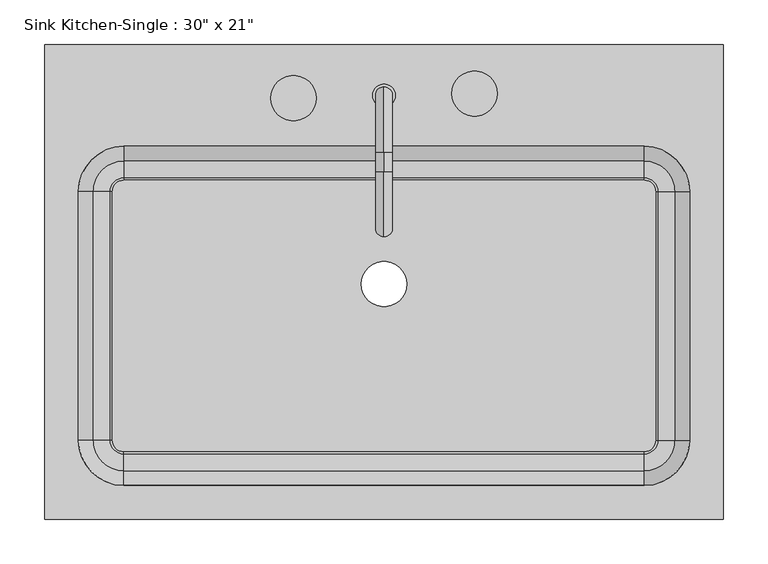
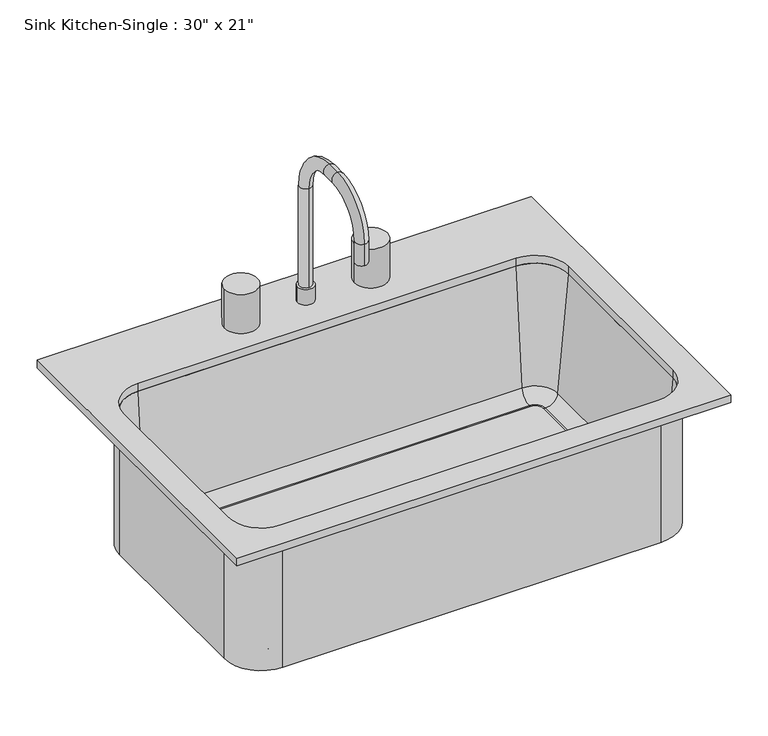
"""IFC4 building model written with IfcOpenShell, lengths in millimetres: flow terminal geometry."""

from ifc_helpers import new_model, si_unit, point, frame, frame_2d, origin, place, context, project, spatial, polyline, circle_curve, ellipse_curve, trimmed, segment, composite_curve, outline, extrude, source, transform, mapped, element, save
from ifc_brep_helpers import plane_surface, cylinder_surface, revolved_surface, advanced_brep


def flow_terminal_4af5d52b(model_context):
    return source(origin(), model_context, "Body", "SolidModel", [
        extrude(outline(composite_curve([segment(trimmed(circle_curve(frame_2d((15.6892406, 211.8954011)), 12.7), [point((2.9892406, 211.8954011))], [point((28.3892406, 211.8954011))], False, "CARTESIAN"), True, "CONTINUOUS"), segment(trimmed(circle_curve(frame_2d((15.6892406, 211.8954011)), 12.7), [point((28.3892406, 211.8954011))], [point((2.9892406, 211.8954011))], False, "CARTESIAN"), True, "CONTINUOUS")], self_intersect=False)), frame((0.0, 0.0, 927.1), z_axis=(0.0, 0.0, 1.0), x_axis=(1.0, 0.0, 0.0)), (0.0, 0.0, 1.0), 25.4),
        advanced_brep(
        [(15.6892406, 221.4204011, 927.1), (15.6892406, 202.3704011, 927.1), (15.6892406, 221.4204011, 1114.425), (15.6892406, 202.3704011, 1114.425), (15.6892406, 148.3954011, 1168.4), (15.6892406, 148.3954011, 1187.45), (15.6892406, 126.1704011, 1187.45), (15.6892406, 126.1704011, 1168.4), (15.6892406, 72.1954011, 1114.425), (15.6892406, 53.1454011, 1114.425), (15.6892406, 53.1454011, 1079.5), (15.6892406, 72.1954011, 1079.5)],
        [
            (0, 1, circle_curve(frame((15.6892406, 211.8954011, 927.1), z_axis=(0.0, 0.0, -1.0), x_axis=(0.0, -1.0, 0.0)), 9.525)),
            (1, 0, circle_curve(frame((15.6892406, 211.8954011, 927.1), z_axis=(0.0, 0.0, -1.0), x_axis=(0.0, -1.0, 0.0)), 9.525)),
            (0, 2),
            (2, 3, circle_curve(frame((15.6892406, 211.8954011, 1114.425), z_axis=(0.0, 0.0, -1.0), x_axis=(0.0, -1.0, 0.0)), 9.525)),
            (3, 1),
            (3, 2, circle_curve(frame((15.6892406, 211.8954011, 1114.425), z_axis=(0.0, 0.0, -1.0), x_axis=(0.0, -1.0, 0.0)), 9.525)),
            (4, 3, circle_curve(frame((15.6892406, 148.3954011, 1114.425), z_axis=(-1.0, 0.0, 0.0), x_axis=(0.0, 1.0, 0.0)), 53.975)),
            (2, 5, circle_curve(frame((15.6892406, 148.3954011, 1114.425), z_axis=(1.0, 0.0, 0.0), x_axis=(0.0, 1.0, 0.0)), 73.025)),
            (5, 4, circle_curve(frame((15.6892406, 148.3954011, 1177.925), z_axis=(0.0, 1.0, 0.0), x_axis=(0.0, 0.0, -1.0)), 9.525)),
            (4, 5, circle_curve(frame((15.6892406, 148.3954011, 1177.925), z_axis=(0.0, 1.0, 0.0), x_axis=(0.0, 0.0, -1.0)), 9.525)),
            (5, 6),
            (6, 7, circle_curve(frame((15.6892406, 126.1704011, 1177.925), z_axis=(0.0, 1.0, 0.0), x_axis=(0.0, 0.0, -1.0)), 9.525)),
            (7, 4),
            (7, 6, circle_curve(frame((15.6892406, 126.1704011, 1177.925), z_axis=(0.0, 1.0, 0.0), x_axis=(0.0, 0.0, -1.0)), 9.525)),
            (8, 7, circle_curve(frame((15.6892406, 126.1704011, 1114.425), z_axis=(-1.0, 0.0, 0.0), x_axis=(0.0, 0.0, 1.0)), 53.975)),
            (6, 9, circle_curve(frame((15.6892406, 126.1704011, 1114.425), z_axis=(1.0, 0.0, 0.0), x_axis=(0.0, 0.0, 1.0)), 73.025)),
            (9, 8, circle_curve(frame((15.6892406, 62.6704011, 1114.425), z_axis=(0.0, 0.0, 1.0), x_axis=(0.0, 1.0, 0.0)), 9.525)),
            (8, 9, circle_curve(frame((15.6892406, 62.6704011, 1114.425), z_axis=(0.0, 0.0, 1.0), x_axis=(0.0, 1.0, 0.0)), 9.525)),
            (10, 11, circle_curve(frame((15.6892406, 62.6704011, 1079.5), z_axis=(0.0, 0.0, -1.0), x_axis=(0.0, 1.0, 0.0)), 9.525)),
            (11, 10, circle_curve(frame((15.6892406, 62.6704011, 1079.5), z_axis=(0.0, 0.0, -1.0), x_axis=(0.0, 1.0, 0.0)), 9.525)),
            (9, 10),
            (11, 8),
        ],
        [
            plane_surface(frame((15.6892406, 202.3704011, 927.1), z_axis=(0.0, 0.0, -1.0), x_axis=(1.0, 0.0, 0.0))),
            cylinder_surface(frame((15.6892406, 211.8954011, 927.1), z_axis=(0.0, 0.0, -1.0), x_axis=(0.0, -1.0, 0.0)), 9.525),
            revolved_surface(trimmed(ellipse_curve(frame((15.6892406, 211.8954011, 1114.425), z_axis=(0.0, 0.0, -1.0), x_axis=(0.0, -1.0, 0.0)), 9.525, 9.525), [point((15.6892406, 221.4204011, 1114.425))], [point((15.6892406, 202.3704011, 1114.425))], True, "CARTESIAN"), (15.6892406, 148.3954011, 1114.425), (1.0, 0.0, 0.0)),
            revolved_surface(trimmed(ellipse_curve(frame((15.6892406, 211.8954011, 1114.425), z_axis=(0.0, 0.0, -1.0), x_axis=(0.0, -1.0, 0.0)), 9.525, 9.525), [point((15.6892406, 202.3704011, 1114.425))], [point((15.6892406, 221.4204011, 1114.425))], True, "CARTESIAN"), (15.6892406, 148.3954011, 1114.425), (1.0, 0.0, 0.0)),
            cylinder_surface(frame((15.6892406, 148.3954011, 1177.925), z_axis=(0.0, 1.0, 0.0), x_axis=(0.0, 0.0, -1.0)), 9.525),
            revolved_surface(trimmed(ellipse_curve(frame((15.6892406, 126.1704011, 1177.925), z_axis=(0.0, 1.0, 0.0), x_axis=(0.0, 0.0, -1.0)), 9.525, 9.525), [point((15.6892406, 126.1704011, 1187.45))], [point((15.6892406, 126.1704011, 1168.4))], True, "CARTESIAN"), (15.6892406, 126.1704011, 1114.425), (1.0, 0.0, 0.0)),
            revolved_surface(trimmed(ellipse_curve(frame((15.6892406, 126.1704011, 1177.925), z_axis=(0.0, 1.0, 0.0), x_axis=(0.0, 0.0, -1.0)), 9.525, 9.525), [point((15.6892406, 126.1704011, 1168.4))], [point((15.6892406, 126.1704011, 1187.45))], True, "CARTESIAN"), (15.6892406, 126.1704011, 1114.425), (1.0, 0.0, 0.0)),
            plane_surface(frame((15.6892406, 53.1454011, 1079.5), z_axis=(0.0, 0.0, -1.0), x_axis=(-1.0, 0.0, 0.0))),
            cylinder_surface(frame((15.6892406, 62.6704011, 1114.425), z_axis=(0.0, 0.0, 1.0), x_axis=(0.0, 1.0, 0.0)), 9.525),
        ],
        [
            (0, [[1, 2]]),
            (1, [[-1, 3, 4, 5]]),
            (1, [[-2, -5, 6, -3]]),
            (2, [[7, -4, 8, 9]]),
            (3, [[-8, -6, -7, 10]]),
            (4, [[-9, 11, 12, 13]]),
            (4, [[-10, -13, 14, -11]]),
            (5, [[15, -12, 16, 17]]),
            (6, [[-16, -14, -15, 18]]),
            (7, [[19, 20]]),
            (8, [[-17, 21, -20, 22]]),
            (8, [[-18, -22, -19, -21]]),
        ],
    ),
        extrude(outline(composite_curve([segment(trimmed(circle_curve(frame_2d((-85.9107594, 208.8166076)), 25.4), [point((-111.3107594, 208.8166076))], [point((-60.5107594, 208.8166076))], False, "CARTESIAN"), True, "CONTINUOUS"), segment(trimmed(circle_curve(frame_2d((-85.9107594, 208.8166076)), 25.4), [point((-60.5107594, 208.8166076))], [point((-111.3107594, 208.8166076))], False, "CARTESIAN"), True, "CONTINUOUS")], self_intersect=False)), frame((0.0, 0.0, 927.1), z_axis=(0.0, 0.0, 1.0), x_axis=(1.0, 0.0, 0.0)), (0.0, 0.0, 1.0), 63.5),
        extrude(outline(composite_curve([segment(trimmed(circle_curve(frame_2d((117.2892406, 214.0133323)), 25.4), [point((91.8892406, 214.0133323))], [point((142.6892406, 214.0133323))], False, "CARTESIAN"), True, "CONTINUOUS"), segment(trimmed(circle_curve(frame_2d((117.2892406, 214.0133323)), 25.4), [point((142.6892406, 214.0133323))], [point((91.8892406, 214.0133323))], False, "CARTESIAN"), True, "CONTINUOUS")], self_intersect=False)), frame((0.0, 0.0, 927.1), z_axis=(0.0, 0.0, 1.0), x_axis=(1.0, 0.0, 0.0)), (0.0, 0.0, 1.0), 63.5),
        extrude(outline(composite_curve([segment(trimmed(circle_curve(frame_2d((307.7892406, 103.9454011)), 12.7), [point((307.7892406, 116.6454011))], [point((320.4892406, 103.9454011))], False, "CARTESIAN"), True, "CONTINUOUS"), segment(polyline([(320.4892406, 103.9454011), (320.4892406, -175.4545989)]), True, "CONTINUOUS"), segment(trimmed(circle_curve(frame_2d((307.7892406, -175.4545989)), 12.7), [point((320.4892406, -175.4545989))], [point((307.7892406, -188.1545989))], False, "CARTESIAN"), True, "CONTINUOUS"), segment(polyline([(307.7892406, -188.1545989), (-276.4107594, -188.1545989)]), True, "CONTINUOUS"), segment(trimmed(circle_curve(frame_2d((-276.4107594, -175.4545989)), 12.7), [point((-276.4107594, -188.1545989))], [point((-289.1107594, -175.4545989))], False, "CARTESIAN"), True, "CONTINUOUS"), segment(polyline([(-289.1107594, -175.4545989), (-289.1107594, 103.9454011)]), True, "CONTINUOUS"), segment(trimmed(circle_curve(frame_2d((-276.4107594, 103.9454011)), 12.7), [point((-289.1107594, 103.9454011))], [point((-276.4107594, 116.6454011))], False, "CARTESIAN"), True, "CONTINUOUS"), segment(polyline([(-276.4107594, 116.6454011), (307.7892406, 116.6454011)]), True, "CONTINUOUS")], self_intersect=False), holes=[composite_curve([segment(trimmed(circle_curve(frame_2d((15.6892406, 0.0)), 25.4), [point((-9.7107594, 0.0))], [point((41.0892406, 0.0))], True, "CARTESIAN"), True, "CONTINUOUS"), segment(trimmed(circle_curve(frame_2d((15.6892406, 0.0)), 25.4), [point((41.0892406, 0.0))], [point((-9.7107594, 0.0))], True, "CARTESIAN"), True, "CONTINUOUS")], self_intersect=False)]), frame((0.0, 0.0, 698.5), z_axis=(0.0, 0.0, 1.0), x_axis=(1.0, 0.0, 0.0)), (0.0, 0.0, 1.0), 9.525),
        advanced_brep(
        [(364.9392406, 103.9454011, 698.5), (307.7892406, 161.0954011, 698.5), (307.7892406, 161.0954011, 914.4), (364.9392406, 103.9454011, 914.4), (320.4892406, 103.9454011, 698.5), (307.7892406, 116.6454011, 698.5), (320.4892406, 103.9454011, 708.025), (307.7892406, 116.6454011, 708.025), (323.0776588, 103.9454011, 708.025), (307.7892406, 119.2338193, 708.025), (342.0551678, 103.9454011, 725.4146831), (307.7892406, 138.2113283, 725.4146831), (358.5892406, 103.9454011, 914.4), (307.7892406, 154.7454011, 914.4), (364.9392406, -175.4545989, 914.4), (364.9392406, -175.4545989, 698.5), (320.4892406, -175.4545989, 698.5), (320.4892406, -175.4545989, 708.025), (323.0776588, -175.4545989, 708.025), (342.0551678, -175.4545989, 725.4146831), (358.5892406, -175.4545989, 914.4), (307.7892406, -232.6045989, 698.5), (307.7892406, -232.6045989, 914.4), (307.7892406, -188.1545989, 698.5), (307.7892406, -188.1545989, 708.025), (307.7892406, -190.7430171, 708.025), (307.7892406, -209.7205261, 725.4146831), (307.7892406, -226.2545989, 914.4), (-276.4107594, -232.6045989, 914.4), (-276.4107594, -232.6045989, 698.5), (-276.4107594, -188.1545989, 698.5), (-276.4107594, -188.1545989, 708.025), (-276.4107594, -190.7430171, 708.025), (-276.4107594, -209.7205261, 725.4146831), (-276.4107594, -226.2545989, 914.4), (-333.5607594, -175.4545989, 698.5), (-333.5607594, -175.4545989, 914.4), (-289.1107594, -175.4545989, 698.5), (-289.1107594, -175.4545989, 708.025), (-291.6991776, -175.4545989, 708.025), (-310.6766866, -175.4545989, 725.4146831), (-327.2107594, -175.4545989, 914.4), (-333.5607594, 103.9454011, 914.4), (-333.5607594, 103.9454011, 698.5), (-289.1107594, 103.9454011, 698.5), (-289.1107594, 103.9454011, 708.025), (-291.6991776, 103.9454011, 708.025), (-310.6766866, 103.9454011, 725.4146831), (-327.2107594, 103.9454011, 914.4), (-276.4107594, 161.0954011, 698.5), (-276.4107594, 161.0954011, 914.4), (-276.4107594, 116.6454011, 698.5), (-276.4107594, 116.6454011, 708.025), (-276.4107594, 119.2338193, 708.025), (-276.4107594, 138.2113283, 725.4146831), (-276.4107594, 154.7454011, 914.4)],
        [
            (0, 1, circle_curve(frame((307.7892406, 103.9454011, 698.5), z_axis=(0.0, 0.0, 1.0), x_axis=(0.0, 1.0, 0.0)), 57.15)),
            (1, 2),
            (2, 3, circle_curve(frame((307.7892406, 103.9454011, 914.4), z_axis=(0.0, 0.0, -1.0), x_axis=(0.0, 1.0, 0.0)), 57.15)),
            (3, 0),
            (4, 5, circle_curve(frame((307.7892406, 103.9454011, 698.5), z_axis=(0.0, 0.0, 1.0), x_axis=(0.0, 1.0, 0.0)), 12.7)),
            (5, 1),
            (0, 4),
            (6, 7, circle_curve(frame((307.7892406, 103.9454011, 708.025), z_axis=(0.0, 0.0, 1.0), x_axis=(0.0, 1.0, 0.0)), 12.7)),
            (7, 5),
            (4, 6),
            (8, 9, circle_curve(frame((307.7892406, 103.9454011, 708.025), z_axis=(0.0, 0.0, 1.0), x_axis=(0.0, 1.0, 0.0)), 15.2884182)),
            (9, 7),
            (6, 8),
            (10, 11, circle_curve(frame((307.7892406, 103.9454011, 725.4146831), z_axis=(0.0, 0.0, 1.0), x_axis=(0.0, 1.0, 0.0)), 34.2659272)),
            (11, 9, circle_curve(frame((307.7892406, 119.2338193, 727.075), z_axis=(-1.0, 0.0, 0.0), x_axis=(0.0, 1.0, 0.0)), 19.05)),
            (8, 10, circle_curve(frame((323.0776588, 103.9454011, 727.075), z_axis=(0.0, -1.0, 0.0), x_axis=(1.0, 0.0, 0.0)), 19.05)),
            (12, 13, circle_curve(frame((307.7892406, 103.9454011, 914.4), z_axis=(0.0, 0.0, 1.0), x_axis=(0.0, 1.0, 0.0)), 50.8)),
            (13, 11),
            (10, 12),
            (2, 13),
            (12, 3),
            (3, 14),
            (14, 15),
            (15, 0),
            (15, 16),
            (16, 4),
            (16, 17),
            (17, 6),
            (17, 18),
            (18, 8),
            (18, 19, circle_curve(frame((323.0776588, -175.4545989, 727.075), z_axis=(0.0, -1.0, 0.0), x_axis=(1.0, 0.0, 0.0)), 19.05)),
            (19, 10),
            (19, 20),
            (20, 12),
            (20, 14),
            (21, 15, circle_curve(frame((307.7892406, -175.4545989, 698.5), z_axis=(0.0, 0.0, 1.0), x_axis=(1.0, 0.0, 0.0)), 57.15)),
            (14, 22, circle_curve(frame((307.7892406, -175.4545989, 914.4), z_axis=(0.0, 0.0, -1.0), x_axis=(1.0, 0.0, 0.0)), 57.15)),
            (22, 21),
            (23, 16, circle_curve(frame((307.7892406, -175.4545989, 698.5), z_axis=(0.0, 0.0, 1.0), x_axis=(1.0, 0.0, 0.0)), 12.7)),
            (21, 23),
            (24, 17, circle_curve(frame((307.7892406, -175.4545989, 708.025), z_axis=(0.0, 0.0, 1.0), x_axis=(1.0, 0.0, 0.0)), 12.7)),
            (23, 24),
            (25, 18, circle_curve(frame((307.7892406, -175.4545989, 708.025), z_axis=(0.0, 0.0, 1.0), x_axis=(1.0, 0.0, 0.0)), 15.2884182)),
            (24, 25),
            (26, 19, circle_curve(frame((307.7892406, -175.4545989, 725.4146831), z_axis=(0.0, 0.0, 1.0), x_axis=(1.0, 0.0, 0.0)), 34.2659272)),
            (25, 26, circle_curve(frame((307.7892406, -190.7430171, 727.075), z_axis=(-1.0, 0.0, 0.0), x_axis=(0.0, -1.0, 0.0)), 19.05)),
            (27, 20, circle_curve(frame((307.7892406, -175.4545989, 914.4), z_axis=(0.0, 0.0, 1.0), x_axis=(1.0, 0.0, 0.0)), 50.8)),
            (26, 27),
            (27, 22),
            (22, 28),
            (28, 29),
            (29, 21),
            (29, 30),
            (30, 23),
            (30, 31),
            (31, 24),
            (31, 32),
            (32, 25),
            (32, 33, circle_curve(frame((-276.4107594, -190.7430171, 727.075), z_axis=(-1.0, 0.0, 0.0), x_axis=(0.0, -1.0, 0.0)), 19.05)),
            (33, 26),
            (33, 34),
            (34, 27),
            (34, 28),
            (35, 29, circle_curve(frame((-276.4107594, -175.4545989, 698.5), z_axis=(0.0, 0.0, 1.0), x_axis=(0.0, -1.0, 0.0)), 57.15)),
            (28, 36, circle_curve(frame((-276.4107594, -175.4545989, 914.4), z_axis=(0.0, 0.0, -1.0), x_axis=(0.0, -1.0, 0.0)), 57.15)),
            (36, 35),
            (37, 30, circle_curve(frame((-276.4107594, -175.4545989, 698.5), z_axis=(0.0, 0.0, 1.0), x_axis=(0.0, -1.0, 0.0)), 12.7)),
            (35, 37),
            (38, 31, circle_curve(frame((-276.4107594, -175.4545989, 708.025), z_axis=(0.0, 0.0, 1.0), x_axis=(0.0, -1.0, 0.0)), 12.7)),
            (37, 38),
            (39, 32, circle_curve(frame((-276.4107594, -175.4545989, 708.025), z_axis=(0.0, 0.0, 1.0), x_axis=(0.0, -1.0, 0.0)), 15.2884182)),
            (38, 39),
            (40, 33, circle_curve(frame((-276.4107594, -175.4545989, 725.4146831), z_axis=(0.0, 0.0, 1.0), x_axis=(0.0, -1.0, 0.0)), 34.2659272)),
            (39, 40, circle_curve(frame((-291.6991776, -175.4545989, 727.075), z_axis=(0.0, 1.0, 0.0), x_axis=(-1.0, 0.0, 0.0)), 19.05)),
            (41, 34, circle_curve(frame((-276.4107594, -175.4545989, 914.4), z_axis=(0.0, 0.0, 1.0), x_axis=(0.0, -1.0, 0.0)), 50.8)),
            (40, 41),
            (41, 36),
            (36, 42),
            (42, 43),
            (43, 35),
            (43, 44),
            (44, 37),
            (44, 45),
            (45, 38),
            (45, 46),
            (46, 39),
            (46, 47, circle_curve(frame((-291.6991776, 103.9454011, 727.075), z_axis=(0.0, 1.0, 0.0), x_axis=(-1.0, 0.0, 0.0)), 19.05)),
            (47, 40),
            (47, 48),
            (48, 41),
            (48, 42),
            (49, 43, circle_curve(frame((-276.4107594, 103.9454011, 698.5), z_axis=(0.0, 0.0, 1.0), x_axis=(-1.0, 0.0, 0.0)), 57.15)),
            (42, 50, circle_curve(frame((-276.4107594, 103.9454011, 914.4), z_axis=(0.0, 0.0, -1.0), x_axis=(-1.0, 0.0, 0.0)), 57.15)),
            (50, 49),
            (51, 44, circle_curve(frame((-276.4107594, 103.9454011, 698.5), z_axis=(0.0, 0.0, 1.0), x_axis=(-1.0, 0.0, 0.0)), 12.7)),
            (49, 51),
            (52, 45, circle_curve(frame((-276.4107594, 103.9454011, 708.025), z_axis=(0.0, 0.0, 1.0), x_axis=(-1.0, 0.0, 0.0)), 12.7)),
            (51, 52),
            (53, 46, circle_curve(frame((-276.4107594, 103.9454011, 708.025), z_axis=(0.0, 0.0, 1.0), x_axis=(-1.0, 0.0, 0.0)), 15.2884182)),
            (52, 53),
            (54, 47, circle_curve(frame((-276.4107594, 103.9454011, 725.4146831), z_axis=(0.0, 0.0, 1.0), x_axis=(-1.0, 0.0, 0.0)), 34.2659272)),
            (53, 54, circle_curve(frame((-276.4107594, 119.2338193, 727.075), z_axis=(1.0, 0.0, 0.0), x_axis=(0.0, 1.0, 0.0)), 19.05)),
            (55, 48, circle_curve(frame((-276.4107594, 103.9454011, 914.4), z_axis=(0.0, 0.0, 1.0), x_axis=(-1.0, 0.0, 0.0)), 50.8)),
            (54, 55),
            (55, 50),
            (50, 2),
            (1, 49),
            (5, 51),
            (7, 52),
            (9, 53),
            (11, 54),
            (13, 55),
        ],
        [
            cylinder_surface(frame((307.7892406, 103.9454011, 0.0), z_axis=(0.0, 0.0, -1.0), x_axis=(0.0, 1.0, 0.0)), 57.15),
            plane_surface(frame((307.7892406, 103.9454011, 698.5), z_axis=(0.0, 0.0, -1.0), x_axis=(0.0, 1.0, 0.0))),
            revolved_surface(polyline([(307.7892406, 116.6454011, 698.5), (307.7892406, 116.6454011, 708.025)]), (307.7892406, 103.9454011, 0.0), (0.0, 0.0, -1.0)),
            plane_surface(frame((307.7892406, 103.9454011, 708.025), z_axis=(0.0, 0.0, 1.0), x_axis=(0.0, 1.0, 0.0))),
            revolved_surface(trimmed(ellipse_curve(frame((307.7892406, 119.2338193, 727.075), z_axis=(1.0, 0.0, 0.0), x_axis=(0.0, 1.0, 0.0)), 19.05, 19.05), [point((307.7892406, 119.2338193, 708.025))], [point((307.7892406, 138.2113283, 725.4146831))], True, "CARTESIAN"), (307.7892406, 103.9454011, 0.0), (0.0, 0.0, -1.0)),
            revolved_surface(polyline([(307.7892406, 138.2113283, 725.4146831), (307.7892406, 154.7454011, 914.4)]), (307.7892406, 103.9454011, 0.0), (0.0, 0.0, -1.0)),
            plane_surface(frame((307.7892406, 103.9454011, 914.4), z_axis=(0.0, 0.0, 1.0), x_axis=(0.0, 1.0, 0.0))),
            plane_surface(frame((364.9392406, 103.9454011, 914.4), z_axis=(1.0, 0.0, 0.0), x_axis=(0.0, -1.0, 0.0))),
            plane_surface(frame((364.9392406, 103.9454011, 698.5), z_axis=(0.0, 0.0, -1.0), x_axis=(0.0, -1.0, 0.0))),
            plane_surface(frame((320.4892406, 103.9454011, 698.5), z_axis=(-1.0, 0.0, 0.0), x_axis=(0.0, -1.0, 0.0))),
            plane_surface(frame((320.4892406, 103.9454011, 708.025), z_axis=(0.0, 0.0, 1.0), x_axis=(0.0, -1.0, 0.0))),
            revolved_surface(polyline([(342.1276588, -175.45459889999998, 727.075), (342.1276588, 103.9454011, 727.075)]), (323.0776588, 103.9454011, 727.075), (0.0, -1.0, 0.0)),
            plane_surface(frame((342.0551678, 103.9454011, 725.4146831), z_axis=(-0.9961946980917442, 0.0, 0.08715574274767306), x_axis=(0.0, -1.0, 0.0))),
            plane_surface(frame((358.5892406, 103.9454011, 914.4), z_axis=(0.0, 0.0, 1.0), x_axis=(0.0, -1.0, 0.0))),
            cylinder_surface(frame((307.7892406, -175.4545989, 0.0), z_axis=(0.0, 0.0, -1.0), x_axis=(1.0, 0.0, 0.0)), 57.15),
            plane_surface(frame((307.7892406, -175.4545989, 698.5), z_axis=(0.0, 0.0, -1.0), x_axis=(1.0, 0.0, 0.0))),
            revolved_surface(polyline([(320.4892406, -175.4545989, 698.5), (320.4892406, -175.4545989, 708.025)]), (307.7892406, -175.4545989, 0.0), (0.0, 0.0, -1.0)),
            plane_surface(frame((307.7892406, -175.4545989, 708.025), z_axis=(0.0, 0.0, 1.0), x_axis=(1.0, 0.0, 0.0))),
            revolved_surface(trimmed(ellipse_curve(frame((323.0776588, -175.4545989, 727.075), z_axis=(0.0, -1.0, 0.0), x_axis=(1.0, 0.0, 0.0)), 19.05, 19.05), [point((323.0776588, -175.4545989, 708.025))], [point((342.0551678, -175.4545989, 725.4146831))], True, "CARTESIAN"), (307.7892406, -175.4545989, 0.0), (0.0, 0.0, -1.0)),
            revolved_surface(polyline([(342.0551678, -175.4545989, 725.4146831), (358.5892406, -175.4545989, 914.4)]), (307.7892406, -175.4545989, 0.0), (0.0, 0.0, -1.0)),
            plane_surface(frame((307.7892406, -175.4545989, 914.4), z_axis=(0.0, 0.0, 1.0), x_axis=(1.0, 0.0, 0.0))),
            plane_surface(frame((307.7892406, -232.6045989, 914.4), z_axis=(0.0, -1.0, 0.0), x_axis=(-1.0, 0.0, 0.0))),
            plane_surface(frame((307.7892406, -232.6045989, 698.5), z_axis=(0.0, 0.0, -1.0), x_axis=(-1.0, 0.0, 0.0))),
            plane_surface(frame((307.7892406, -188.1545989, 698.5), z_axis=(0.0, 1.0, 0.0), x_axis=(-1.0, 0.0, 0.0))),
            plane_surface(frame((307.7892406, -188.1545989, 708.025), z_axis=(0.0, 0.0, 1.0), x_axis=(-1.0, 0.0, 0.0))),
            revolved_surface(polyline([(-276.4107594, -209.79301710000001, 727.075), (307.7892406, -209.79301710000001, 727.075)]), (307.7892406, -190.7430171, 727.075), (-1.0, 0.0, 0.0)),
            plane_surface(frame((307.7892406, -209.7205261, 725.4146831), z_axis=(0.0, 0.9961946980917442, 0.08715574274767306), x_axis=(-1.0, 0.0, 0.0))),
            plane_surface(frame((307.7892406, -226.2545989, 914.4), z_axis=(0.0, 0.0, 1.0), x_axis=(-1.0, 0.0, 0.0))),
            cylinder_surface(frame((-276.4107594, -175.4545989, 0.0), z_axis=(0.0, 0.0, -1.0), x_axis=(0.0, -1.0, 0.0)), 57.15),
            plane_surface(frame((-276.4107594, -175.4545989, 698.5), z_axis=(0.0, 0.0, -1.0), x_axis=(0.0, -1.0, 0.0))),
            revolved_surface(polyline([(-276.4107594, -188.1545989, 698.5), (-276.4107594, -188.1545989, 708.025)]), (-276.4107594, -175.4545989, 0.0), (0.0, 0.0, -1.0)),
            plane_surface(frame((-276.4107594, -175.4545989, 708.025), z_axis=(0.0, 0.0, 1.0), x_axis=(0.0, -1.0, 0.0))),
            revolved_surface(trimmed(ellipse_curve(frame((-276.4107594, -190.7430171, 727.075), z_axis=(-1.0, 0.0, 0.0), x_axis=(0.0, -1.0, 0.0)), 19.05, 19.05), [point((-276.4107594, -190.7430171, 708.025))], [point((-276.4107594, -209.7205261, 725.4146831))], True, "CARTESIAN"), (-276.4107594, -175.4545989, 0.0), (0.0, 0.0, -1.0)),
            revolved_surface(polyline([(-276.4107594, -209.7205261, 725.4146831), (-276.4107594, -226.2545989, 914.4)]), (-276.4107594, -175.4545989, 0.0), (0.0, 0.0, -1.0)),
            plane_surface(frame((-276.4107594, -175.4545989, 914.4), z_axis=(0.0, 0.0, 1.0), x_axis=(0.0, -1.0, 0.0))),
            plane_surface(frame((-333.5607594, -175.4545989, 914.4), z_axis=(-1.0, 0.0, 0.0), x_axis=(0.0, 1.0, 0.0))),
            plane_surface(frame((-333.5607594, -175.4545989, 698.5), z_axis=(0.0, 0.0, -1.0), x_axis=(0.0, 1.0, 0.0))),
            plane_surface(frame((-289.1107594, -175.4545989, 698.5), z_axis=(1.0, 0.0, 0.0), x_axis=(0.0, 1.0, 0.0))),
            plane_surface(frame((-289.1107594, -175.4545989, 708.025), z_axis=(0.0, 0.0, 1.0), x_axis=(0.0, 1.0, 0.0))),
            revolved_surface(polyline([(-310.7491776, 103.94540109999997, 727.075), (-310.7491776, -175.4545989, 727.075)]), (-291.6991776, -175.4545989, 727.075), (0.0, 1.0, 0.0)),
            plane_surface(frame((-310.6766866, -175.4545989, 725.4146831), z_axis=(0.9961946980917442, 0.0, 0.08715574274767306), x_axis=(0.0, 1.0, 0.0))),
            plane_surface(frame((-327.2107594, -175.4545989, 914.4), z_axis=(0.0, 0.0, 1.0), x_axis=(0.0, 1.0, 0.0))),
            cylinder_surface(frame((-276.4107594, 103.9454011, 0.0), z_axis=(0.0, 0.0, -1.0), x_axis=(-1.0, 0.0, 0.0)), 57.15),
            plane_surface(frame((-276.4107594, 103.9454011, 698.5), z_axis=(0.0, 0.0, -1.0), x_axis=(-1.0, 0.0, 0.0))),
            revolved_surface(polyline([(-289.1107594, 103.9454011, 698.5), (-289.1107594, 103.9454011, 708.025)]), (-276.4107594, 103.9454011, 0.0), (0.0, 0.0, -1.0)),
            plane_surface(frame((-276.4107594, 103.9454011, 708.025), z_axis=(0.0, 0.0, 1.0), x_axis=(-1.0, 0.0, 0.0))),
            revolved_surface(trimmed(ellipse_curve(frame((-291.6991776, 103.9454011, 727.075), z_axis=(0.0, 1.0, 0.0), x_axis=(-1.0, 0.0, 0.0)), 19.05, 19.05), [point((-291.6991776, 103.9454011, 708.025))], [point((-310.6766866, 103.9454011, 725.4146831))], True, "CARTESIAN"), (-276.4107594, 103.9454011, 0.0), (0.0, 0.0, -1.0)),
            revolved_surface(polyline([(-310.6766866, 103.9454011, 725.4146831), (-327.2107594, 103.9454011, 914.4)]), (-276.4107594, 103.9454011, 0.0), (0.0, 0.0, -1.0)),
            plane_surface(frame((-276.4107594, 103.9454011, 914.4), z_axis=(0.0, 0.0, 1.0), x_axis=(-1.0, 0.0, 0.0))),
            plane_surface(frame((-276.4107594, 161.0954011, 914.4), z_axis=(0.0, 1.0, 0.0), x_axis=(1.0, 0.0, 0.0))),
            plane_surface(frame((-276.4107594, 161.0954011, 698.5), z_axis=(0.0, 0.0, -1.0), x_axis=(1.0, 0.0, 0.0))),
            plane_surface(frame((-276.4107594, 116.6454011, 698.5), z_axis=(0.0, -1.0, 0.0), x_axis=(1.0, 0.0, 0.0))),
            plane_surface(frame((-276.4107594, 116.6454011, 708.025), z_axis=(0.0, 0.0, 1.0), x_axis=(1.0, 0.0, 0.0))),
            revolved_surface(polyline([(307.7892406, 138.2838193, 727.075), (-276.4107594, 138.2838193, 727.075)]), (-276.4107594, 119.2338193, 727.075), (1.0, 0.0, 0.0)),
            plane_surface(frame((-276.4107594, 138.2113283, 725.4146831), z_axis=(0.0, -0.9961946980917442, 0.08715574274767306), x_axis=(1.0, 0.0, 0.0))),
            plane_surface(frame((-276.4107594, 154.7454011, 914.4), z_axis=(0.0, 0.0, 1.0), x_axis=(1.0, 0.0, 0.0))),
        ],
        [
            (0, [[1, 2, 3, 4]]),
            (1, [[5, 6, -1, 7]]),
            (2, [[8, 9, -5, 10]]),
            (3, [[11, 12, -8, 13]]),
            (4, [[14, 15, -11, 16]]),
            (5, [[17, 18, -14, 19]]),
            (6, [[-3, 20, -17, 21]]),
            (7, [[-4, 22, 23, 24]]),
            (8, [[-7, -24, 25, 26]]),
            (9, [[-10, -26, 27, 28]]),
            (10, [[-13, -28, 29, 30]]),
            (11, [[-16, -30, 31, 32]]),
            (12, [[-19, -32, 33, 34]]),
            (13, [[-21, -34, 35, -22]]),
            (14, [[36, -23, 37, 38]]),
            (15, [[39, -25, -36, 40]]),
            (16, [[41, -27, -39, 42]]),
            (17, [[43, -29, -41, 44]]),
            (18, [[45, -31, -43, 46]]),
            (19, [[47, -33, -45, 48]]),
            (20, [[-37, -35, -47, 49]]),
            (21, [[-38, 50, 51, 52]]),
            (22, [[-40, -52, 53, 54]]),
            (23, [[-42, -54, 55, 56]]),
            (24, [[-44, -56, 57, 58]]),
            (25, [[-46, -58, 59, 60]]),
            (26, [[-48, -60, 61, 62]]),
            (27, [[-49, -62, 63, -50]]),
            (28, [[64, -51, 65, 66]]),
            (29, [[67, -53, -64, 68]]),
            (30, [[69, -55, -67, 70]]),
            (31, [[71, -57, -69, 72]]),
            (32, [[73, -59, -71, 74]]),
            (33, [[75, -61, -73, 76]]),
            (34, [[-65, -63, -75, 77]]),
            (35, [[-66, 78, 79, 80]]),
            (36, [[-68, -80, 81, 82]]),
            (37, [[-70, -82, 83, 84]]),
            (38, [[-72, -84, 85, 86]]),
            (39, [[-74, -86, 87, 88]]),
            (40, [[-76, -88, 89, 90]]),
            (41, [[-77, -90, 91, -78]]),
            (42, [[92, -79, 93, 94]]),
            (43, [[95, -81, -92, 96]]),
            (44, [[97, -83, -95, 98]]),
            (45, [[99, -85, -97, 100]]),
            (46, [[101, -87, -99, 102]]),
            (47, [[103, -89, -101, 104]]),
            (48, [[-93, -91, -103, 105]]),
            (49, [[-94, 106, -2, 107]]),
            (50, [[-96, -107, -6, 108]]),
            (51, [[-98, -108, -9, 109]]),
            (52, [[-100, -109, -12, 110]]),
            (53, [[-102, -110, -15, 111]]),
            (54, [[-104, -111, -18, 112]]),
            (55, [[-105, -112, -20, -106]]),
        ],
    ),
        extrude(outline(polyline([(396.6892406, 269.0454011), (396.6892406, -264.3545989), (-365.3107594, -264.3545989), (-365.3107594, 269.0454011), (396.6892406, 269.0454011)]), holes=[composite_curve([segment(polyline([(307.7892406, 154.7454011), (-276.4107594, 154.7454011)]), True, "CONTINUOUS"), segment(trimmed(circle_curve(frame_2d((-276.4107594, 103.9454011)), 50.8), [point((-276.4107594, 154.7454011))], [point((-327.2107594, 103.9454011))], True, "CARTESIAN"), True, "CONTINUOUS"), segment(polyline([(-327.2107594, 103.9454011), (-327.2107594, -175.4545989)]), True, "CONTINUOUS"), segment(trimmed(circle_curve(frame_2d((-276.4107594, -175.4545989)), 50.8), [point((-327.2107594, -175.4545989))], [point((-276.4107594, -226.2545989))], True, "CARTESIAN"), True, "CONTINUOUS"), segment(polyline([(-276.4107594, -226.2545989), (307.7892406, -226.2545989)]), True, "CONTINUOUS"), segment(trimmed(circle_curve(frame_2d((307.7892406, -175.4545989)), 50.8), [point((307.7892406, -226.2545989))], [point((358.5892406, -175.4545989))], True, "CARTESIAN"), True, "CONTINUOUS"), segment(polyline([(358.5892406, -175.4545989), (358.5892406, 103.9454011)]), True, "CONTINUOUS"), segment(trimmed(circle_curve(frame_2d((307.7892406, 103.9454011)), 50.8), [point((358.5892406, 103.9454011))], [point((307.7892406, 154.7454011))], True, "CARTESIAN"), True, "CONTINUOUS")], self_intersect=False)]), frame((0.0, 0.0, 914.4), z_axis=(0.0, 0.0, 1.0), x_axis=(1.0, 0.0, 0.0)), (0.0, 0.0, 1.0), 12.7),
    ])


if __name__ == "__main__":
    model = new_model("IFC4")
    model_context = context("Model", 3, world=origin())
    ifc_project = project(units=[si_unit("LENGTHUNIT", "METRE", prefix="MILLI")], contexts=[model_context])
    site = spatial("IfcSite", under=ifc_project)
    building = spatial("IfcBuilding", under=site)
    placement = place(None, origin())
    flow_terminal_shape = flow_terminal_4af5d52b(model_context)
    element("IfcFlowTerminal", 1, ObjectType="Sink Kitchen-Single : 30\" x 21\"", at=placement, inside=building, context=model_context, shape_type="MappedRepresentation", body=[
        mapped(flow_terminal_shape, transform((0.0, 0.0, 0.0), x_axis=(1.0, 0.0, 0.0), y_axis=(0.0, 1.0, 0.0), z_axis=(0.0, 0.0, 1.0))),
    ])
    save(model, "model.ifc")
